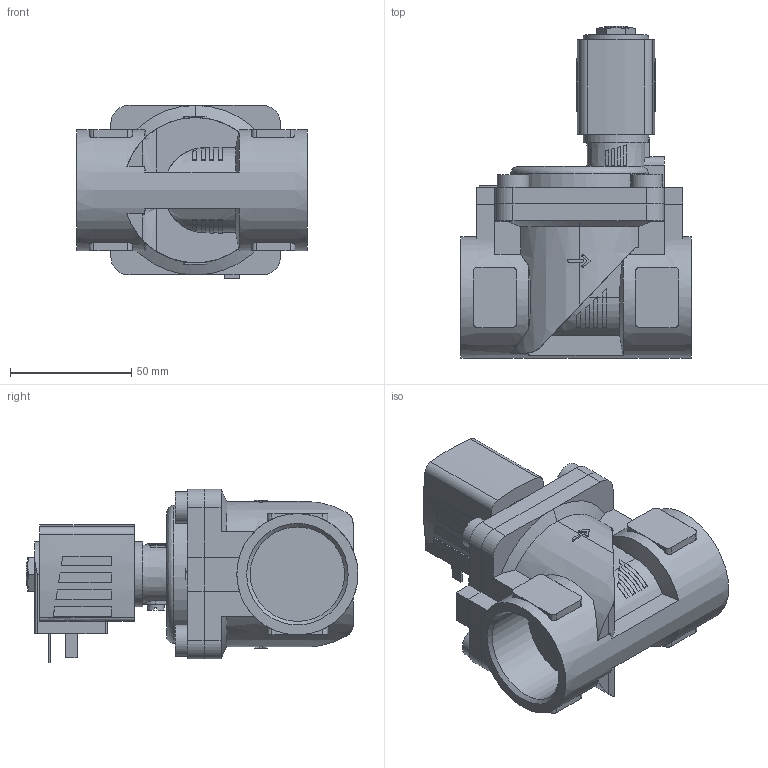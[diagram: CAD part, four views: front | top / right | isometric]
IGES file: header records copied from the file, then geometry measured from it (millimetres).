
Start section: Data from Parasolid IGES Translator 26.0.171, Copyright(c) 2006 Siemens PLM Software. All Rights Reserved.
Global section: file name: 6281-375380-2_2-Way_Solenoid_Valve__Servo-assisted__General_Purpose.igs; native system: By Siemens PLM Incorporated; preprocessor: XPlus GENERIC/IGES 26.0.171; author: Noname; organization: Noname; date: 20240827.163652; units: millimetre
Bounding box: 95 x 137 x 71.5 mm (x, y, z)
Surface area: 60181.5 mm2 (no closed solid volume)
Topology: 0 solids, 0 shells, 367 faces, 1924 edges, 1916 vertices
Faces by surface type: extrusion 247, revolution 120
